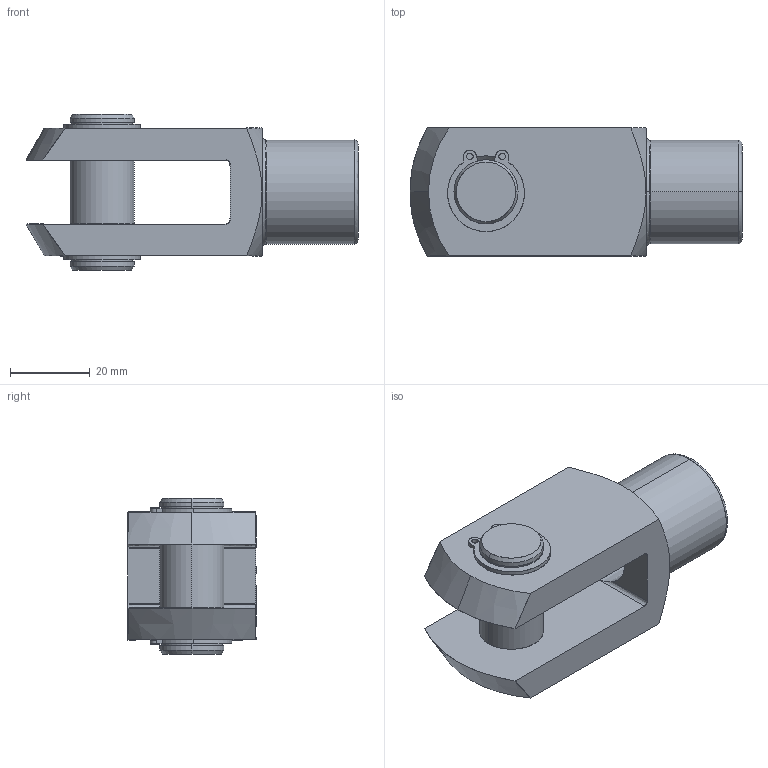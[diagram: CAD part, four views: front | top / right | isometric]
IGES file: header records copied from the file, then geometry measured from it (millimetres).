
Start section: SolidWorks IGES file using analytic representation for surfaces
Global section: file name: C:\Documents and Settings\IANO\My Documents\Wix and Auto CAD Work\CAD Models\Parametric Models\Wix Models\60000\65614_v2\65614_v2_IGES\Default.igs; native system: SolidWorks 2009; preprocessor: SolidWorks 2009; author: IANO; date: 140118.103755; units: millimetre
Bounding box: 83 x 32 x 39 mm (x, y, z)
Surface area: 16469.3 mm2 (no closed solid volume)
Topology: 0 solids, 0 shells, 95 faces, 1716 edges, 1716 vertices
Faces by surface type: revolution 63, bspline 32
